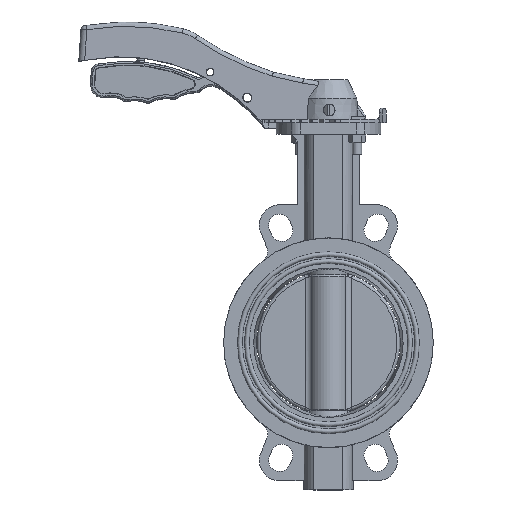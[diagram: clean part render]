
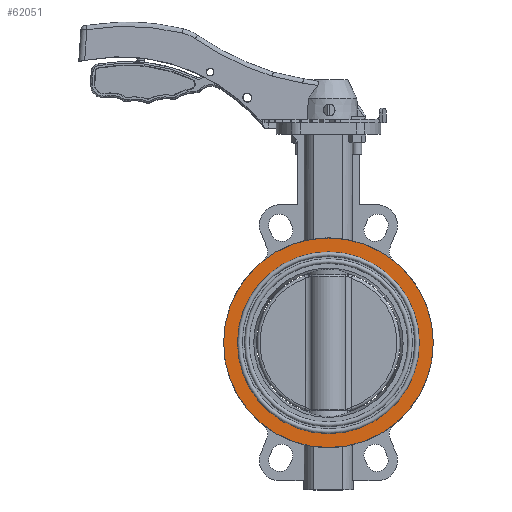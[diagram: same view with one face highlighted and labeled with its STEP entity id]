
A CAD part, top view. The second image highlights one B-rep face of the part: STEP entity #62051.
In plain terms, the highlighted planar face has unit normal (0, 0, 1).
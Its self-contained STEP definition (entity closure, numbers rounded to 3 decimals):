
#1128 = DIRECTION ( 'NONE',  ( 0., 0., 1. ) ) ;
#3232 = AXIS2_PLACEMENT_3D ( 'NONE', #25750, #62163, #42131 ) ;
#4890 = CARTESIAN_POINT ( 'NONE',  ( -112.073, 2.155, 28. ) ) ;
#9913 = VERTEX_POINT ( 'NONE', #4890 ) ;
#10908 = CARTESIAN_POINT ( 'NONE',  ( -100.073, 2.155, 28. ) ) ;
#14445 = CIRCLE ( 'NONE', #53977, 90.5 ) ;
#15510 = FACE_OUTER_BOUND ( 'NONE', #53243, .T. ) ;
#16179 = FACE_BOUND ( 'NONE', #21959, .T. ) ;
#17825 = EDGE_CURVE ( 'NONE', #20947, #20947, #25711, .T. ) ;
#20947 = VERTEX_POINT ( 'NONE', #10908 ) ;
#21959 = EDGE_LOOP ( 'NONE', ( #43026 ) ) ;
#25711 = CIRCLE ( 'NONE', #3232, 78.5 ) ;
#25750 = CARTESIAN_POINT ( 'NONE',  ( -21.573, 2.155, 28. ) ) ;
#29570 = EDGE_CURVE ( 'NONE', #9913, #9913, #14445, .T. ) ;
#34077 = DIRECTION ( 'NONE',  ( 0., 0., -1. ) ) ;
#36918 = PLANE ( 'NONE',  #65772 ) ;
#42131 = DIRECTION ( 'NONE',  ( -1., 0., 0. ) ) ;
#43026 = ORIENTED_EDGE ( 'NONE', *, *, #17825, .T. ) ;
#44468 = CARTESIAN_POINT ( 'NONE',  ( -21.573, 2.155, 28. ) ) ;
#45641 = ORIENTED_EDGE ( 'NONE', *, *, #29570, .F. ) ;
#52624 = CARTESIAN_POINT ( 'NONE',  ( -100.073, 2.155, 28. ) ) ;
#53243 = EDGE_LOOP ( 'NONE', ( #45641 ) ) ;
#53977 = AXIS2_PLACEMENT_3D ( 'NONE', #44468, #34077, #64864 ) ;
#62051 = ADVANCED_FACE ( 'NONE', ( #16179, #15510 ), #36918, .T. ) ;
#62163 = DIRECTION ( 'NONE',  ( 0., 0., -1. ) ) ;
#62342 = DIRECTION ( 'NONE',  ( 1., 0., 0. ) ) ;
#64864 = DIRECTION ( 'NONE',  ( -1., 0., 0. ) ) ;
#65772 = AXIS2_PLACEMENT_3D ( 'NONE', #52624, #1128, #62342 ) ;
